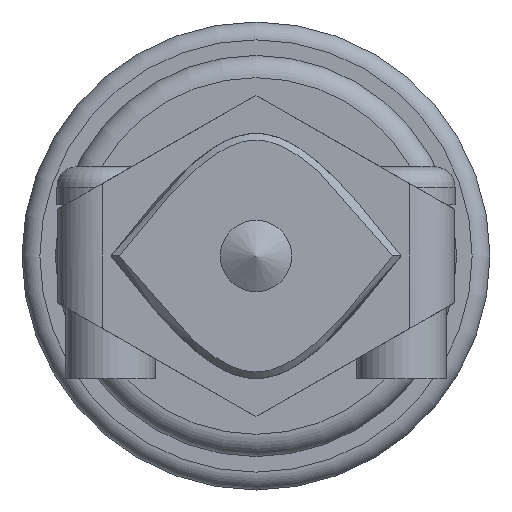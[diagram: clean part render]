
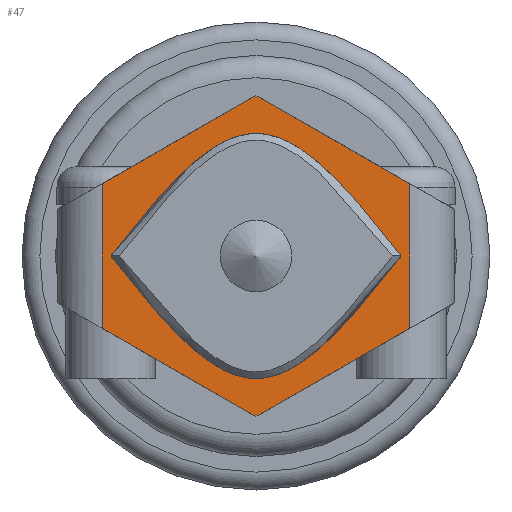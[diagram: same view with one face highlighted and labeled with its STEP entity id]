
A CAD part, left-side view. The second image highlights one B-rep face of the part: STEP entity #47.
In plain terms, the highlighted planar face has unit normal (-1, 0, 0).
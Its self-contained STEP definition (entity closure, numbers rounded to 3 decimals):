
#4 = CARTESIAN_POINT ( 'NONE',  ( 111.691, 63.561, 55.753 ) ) ;
#7 = VECTOR ( 'NONE', #409, 1000. ) ;
#17 = CARTESIAN_POINT ( 'NONE',  ( 111.691, 61.161, 57.853 ) ) ;
#47 = ADVANCED_FACE ( 'NONE', ( #1126, #953 ), #2063, .F. ) ;
#92 = B_SPLINE_CURVE_WITH_KNOTS ( 'NONE', 3,
 ( #2407, #2051, #2234, #537, #1082 ),
 .UNSPECIFIED., .F., .F.,
 ( 4, 1, 4 ),
 ( 0., 0.5, 1. ),
 .UNSPECIFIED. ) ;
#146 = CARTESIAN_POINT ( 'NONE',  ( 111.691, 45.761, 55.753 ) ) ;
#148 = ORIENTED_EDGE ( 'NONE', *, *, #2285, .T. ) ;
#171 = ORIENTED_EDGE ( 'NONE', *, *, #1213, .T. ) ;
#173 = CARTESIAN_POINT ( 'NONE',  ( 111.691, 63.561, 59.953 ) ) ;
#183 = ORIENTED_EDGE ( 'NONE', *, *, #1671, .T. ) ;
#194 = DIRECTION ( 'NONE',  ( 1., 0., 0. ) ) ;
#217 = AXIS2_PLACEMENT_3D ( 'NONE', #173, #194, #1851 ) ;
#312 = DIRECTION ( 'NONE',  ( 0., 0.868, -0.497 ) ) ;
#350 = CARTESIAN_POINT ( 'NONE',  ( 111.691, 47.761, 61.099 ) ) ;
#394 = VERTEX_POINT ( 'NONE', #2391 ) ;
#409 = DIRECTION ( 'NONE',  ( 0., -0.868, -0.497 ) ) ;
#429 = CARTESIAN_POINT ( 'NONE',  ( 111.691, 47.761, 54.607 ) ) ;
#468 = EDGE_LOOP ( 'NONE', ( #1408, #171, #701, #1404, #183, #148 ) ) ;
#483 = CARTESIAN_POINT ( 'NONE',  ( 111.691, 61.561, 54.607 ) ) ;
#501 = EDGE_CURVE ( 'NONE', #574, #1137, #739, .T. ) ;
#537 = CARTESIAN_POINT ( 'NONE',  ( 111.691, 58.994, 60.603 ) ) ;
#544 = VECTOR ( 'NONE', #2349, 1000. ) ;
#561 = DIRECTION ( 'NONE',  ( 0., -0.868, 0.497 ) ) ;
#574 = VERTEX_POINT ( 'NONE', #1467 ) ;
#685 = CARTESIAN_POINT ( 'NONE',  ( 111.691, 47.761, 59.953 ) ) ;
#696 = LINE ( 'NONE', #685, #1938 ) ;
#701 = ORIENTED_EDGE ( 'NONE', *, *, #2379, .T. ) ;
#737 = ORIENTED_EDGE ( 'NONE', *, *, #2155, .F. ) ;
#739 = LINE ( 'NONE', #146, #1863 ) ;
#774 = CARTESIAN_POINT ( 'NONE',  ( 111.691, 58.994, 55.103 ) ) ;
#809 = VERTEX_POINT ( 'NONE', #2252 ) ;
#925 = CARTESIAN_POINT ( 'NONE',  ( 111.691, 45.761, 59.953 ) ) ;
#953 = FACE_BOUND ( 'NONE', #1431, .T. ) ;
#969 = LINE ( 'NONE', #4, #7 ) ;
#975 = CARTESIAN_POINT ( 'NONE',  ( 111.691, 50.327, 55.103 ) ) ;
#995 = CARTESIAN_POINT ( 'NONE',  ( 111.691, 54.661, 49.603 ) ) ;
#1020 = LINE ( 'NONE', #1587, #544 ) ;
#1059 = CARTESIAN_POINT ( 'NONE',  ( 111.691, 63.561, 59.953 ) ) ;
#1082 = CARTESIAN_POINT ( 'NONE',  ( 111.691, 61.161, 57.853 ) ) ;
#1111 = VECTOR ( 'NONE', #1666, 1000. ) ;
#1126 = FACE_OUTER_BOUND ( 'NONE', #468, .T. ) ;
#1137 = VERTEX_POINT ( 'NONE', #429 ) ;
#1158 = CARTESIAN_POINT ( 'NONE',  ( 111.691, 48.161, 57.853 ) ) ;
#1186 = B_SPLINE_CURVE_WITH_KNOTS ( 'NONE', 3,
 ( #17, #774, #995, #975, #1158 ),
 .UNSPECIFIED., .F., .F.,
 ( 4, 1, 4 ),
 ( 0., 0.5, 1. ),
 .UNSPECIFIED. ) ;
#1213 = EDGE_CURVE ( 'NONE', #1137, #1782, #696, .T. ) ;
#1267 = CARTESIAN_POINT ( 'NONE',  ( 111.691, 48.161, 57.853 ) ) ;
#1318 = LINE ( 'NONE', #925, #1111 ) ;
#1404 = ORIENTED_EDGE ( 'NONE', *, *, #2013, .T. ) ;
#1408 = ORIENTED_EDGE ( 'NONE', *, *, #501, .T. ) ;
#1414 = CARTESIAN_POINT ( 'NONE',  ( 111.691, 61.161, 57.853 ) ) ;
#1423 = VECTOR ( 'NONE', #312, 1000. ) ;
#1431 = EDGE_LOOP ( 'NONE', ( #1527, #737 ) ) ;
#1467 = CARTESIAN_POINT ( 'NONE',  ( 111.691, 54.661, 50.653 ) ) ;
#1527 = ORIENTED_EDGE ( 'NONE', *, *, #1530, .F. ) ;
#1530 = EDGE_CURVE ( 'NONE', #1619, #2262, #1186, .T. ) ;
#1587 = CARTESIAN_POINT ( 'NONE',  ( 111.691, 61.561, 59.953 ) ) ;
#1619 = VERTEX_POINT ( 'NONE', #1414 ) ;
#1666 = DIRECTION ( 'NONE',  ( 0., 0.868, 0.497 ) ) ;
#1671 = EDGE_CURVE ( 'NONE', #394, #1970, #1020, .T. ) ;
#1782 = VERTEX_POINT ( 'NONE', #350 ) ;
#1851 = DIRECTION ( 'NONE',  ( 0., 0., 1. ) ) ;
#1863 = VECTOR ( 'NONE', #561, 1000. ) ;
#1938 = VECTOR ( 'NONE', #2007, 1000. ) ;
#1970 = VERTEX_POINT ( 'NONE', #483 ) ;
#1978 = LINE ( 'NONE', #1059, #1423 ) ;
#2007 = DIRECTION ( 'NONE',  ( 0., 0., 1. ) ) ;
#2013 = EDGE_CURVE ( 'NONE', #809, #394, #1978, .T. ) ;
#2051 = CARTESIAN_POINT ( 'NONE',  ( 111.691, 50.327, 60.603 ) ) ;
#2063 = PLANE ( 'NONE',  #217 ) ;
#2155 = EDGE_CURVE ( 'NONE', #2262, #1619, #92, .T. ) ;
#2234 = CARTESIAN_POINT ( 'NONE',  ( 111.691, 54.661, 66.103 ) ) ;
#2252 = CARTESIAN_POINT ( 'NONE',  ( 111.691, 54.661, 65.053 ) ) ;
#2262 = VERTEX_POINT ( 'NONE', #1267 ) ;
#2285 = EDGE_CURVE ( 'NONE', #1970, #574, #969, .T. ) ;
#2349 = DIRECTION ( 'NONE',  ( 0., 0., -1. ) ) ;
#2379 = EDGE_CURVE ( 'NONE', #1782, #809, #1318, .T. ) ;
#2391 = CARTESIAN_POINT ( 'NONE',  ( 111.691, 61.561, 61.099 ) ) ;
#2407 = CARTESIAN_POINT ( 'NONE',  ( 111.691, 48.161, 57.853 ) ) ;
